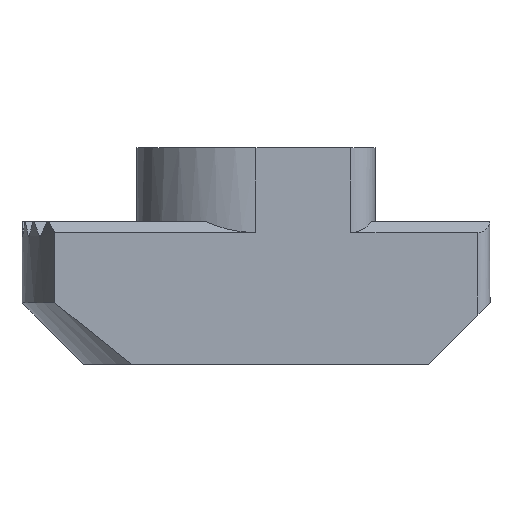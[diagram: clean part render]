
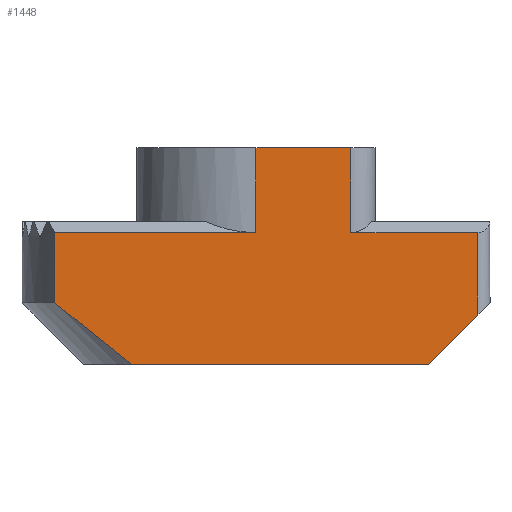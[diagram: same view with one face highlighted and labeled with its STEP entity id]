
A CAD part, front view. The second image highlights one B-rep face of the part: STEP entity #1448.
In plain terms, the highlighted planar face has unit normal (0, -1, 0).
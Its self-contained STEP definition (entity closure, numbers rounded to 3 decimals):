
#32 = VECTOR ( 'NONE', #359, 1000. ) ;
#104 = EDGE_CURVE ( 'NONE', #1151, #149, #1621, .T. ) ;
#149 = VERTEX_POINT ( 'NONE', #1401 ) ;
#186 = DIRECTION ( 'NONE',  ( 0., 0., -1. ) ) ;
#204 = VERTEX_POINT ( 'NONE', #2569 ) ;
#212 = CARTESIAN_POINT ( 'NONE',  ( 0., -4.85, -0.45 ) ) ;
#224 = DIRECTION ( 'NONE',  ( 0., -1., 0. ) ) ;
#298 = VECTOR ( 'NONE', #2303, 1000. ) ;
#328 = LINE ( 'NONE', #2490, #1035 ) ;
#333 = EDGE_CURVE ( 'NONE', #204, #1520, #2553, .T. ) ;
#359 = DIRECTION ( 'NONE',  ( 0.707, 0., 0.707 ) ) ;
#367 = VERTEX_POINT ( 'NONE', #904 ) ;
#378 = EDGE_CURVE ( 'NONE', #204, #2685, #1313, .T. ) ;
#379 = LINE ( 'NONE', #419, #2646 ) ;
#404 = ORIENTED_EDGE ( 'NONE', *, *, #1333, .T. ) ;
#419 = CARTESIAN_POINT ( 'NONE',  ( 0., -4.85, 3. ) ) ;
#468 = CARTESIAN_POINT ( 'NONE',  ( 3.85, -4.85, 3. ) ) ;
#497 = LINE ( 'NONE', #1758, #2519 ) ;
#533 = DIRECTION ( 'NONE',  ( 0., 0., 1. ) ) ;
#594 = VECTOR ( 'NONE', #1320, 1000. ) ;
#632 = EDGE_CURVE ( 'NONE', #1151, #2429, #497, .T. ) ;
#640 = ORIENTED_EDGE ( 'NONE', *, *, #2381, .F. ) ;
#654 = ORIENTED_EDGE ( 'NONE', *, *, #1048, .F. ) ;
#686 = VECTOR ( 'NONE', #2117, 1000. ) ;
#724 = EDGE_CURVE ( 'NONE', #149, #1520, #2070, .T. ) ;
#801 = ORIENTED_EDGE ( 'NONE', *, *, #724, .T. ) ;
#872 = CARTESIAN_POINT ( 'NONE',  ( 9., -4.85, 5.8 ) ) ;
#887 = FACE_OUTER_BOUND ( 'NONE', #1790, .T. ) ;
#904 = CARTESIAN_POINT ( 'NONE',  ( 0., -4.85, -0.45 ) ) ;
#972 = DIRECTION ( 'NONE',  ( 1., 0., 0. ) ) ;
#1034 = ORIENTED_EDGE ( 'NONE', *, *, #104, .T. ) ;
#1035 = VECTOR ( 'NONE', #533, 1000. ) ;
#1048 = EDGE_CURVE ( 'NONE', #1266, #2685, #1361, .T. ) ;
#1074 = DIRECTION ( 'NONE',  ( 0., 0., -1. ) ) ;
#1112 = AXIS2_PLACEMENT_3D ( 'NONE', #2374, #224, #1074 ) ;
#1120 = VERTEX_POINT ( 'NONE', #2011 ) ;
#1151 = VERTEX_POINT ( 'NONE', #2667 ) ;
#1198 = CARTESIAN_POINT ( 'NONE',  ( 7., -4.85, -5.8 ) ) ;
#1214 = VECTOR ( 'NONE', #1307, 1000. ) ;
#1266 = VERTEX_POINT ( 'NONE', #1690 ) ;
#1274 = LINE ( 'NONE', #212, #686 ) ;
#1307 = DIRECTION ( 'NONE',  ( 1., 0., 0. ) ) ;
#1313 = LINE ( 'NONE', #1522, #1888 ) ;
#1320 = DIRECTION ( 'NONE',  ( 0., 0., -1. ) ) ;
#1333 = EDGE_CURVE ( 'NONE', #367, #1120, #1274, .T. ) ;
#1361 = LINE ( 'NONE', #468, #594 ) ;
#1401 = CARTESIAN_POINT ( 'NONE',  ( 7., -4.85, -5.8 ) ) ;
#1448 = ADVANCED_FACE ( 'NONE', ( #887 ), #1519, .T. ) ;
#1519 = PLANE ( 'NONE',  #1112 ) ;
#1520 = VERTEX_POINT ( 'NONE', #1786 ) ;
#1522 = CARTESIAN_POINT ( 'NONE',  ( 0., -4.85, -0.45 ) ) ;
#1534 = DIRECTION ( 'NONE',  ( -1., 0., 0. ) ) ;
#1536 = CARTESIAN_POINT ( 'NONE',  ( 3.85, -4.85, -0.45 ) ) ;
#1573 = ORIENTED_EDGE ( 'NONE', *, *, #2253, .F. ) ;
#1621 = LINE ( 'NONE', #2678, #1669 ) ;
#1642 = ORIENTED_EDGE ( 'NONE', *, *, #378, .T. ) ;
#1669 = VECTOR ( 'NONE', #972, 1000. ) ;
#1690 = CARTESIAN_POINT ( 'NONE',  ( 3.85, -4.85, 3. ) ) ;
#1758 = CARTESIAN_POINT ( 'NONE',  ( -5.048, -4.85, -5.8 ) ) ;
#1786 = CARTESIAN_POINT ( 'NONE',  ( 9., -4.85, -3.8 ) ) ;
#1790 = EDGE_LOOP ( 'NONE', ( #801, #2363, #1642, #654, #1573, #2090, #404, #640, #1907, #1034 ) ) ;
#1888 = VECTOR ( 'NONE', #1534, 1000. ) ;
#1907 = ORIENTED_EDGE ( 'NONE', *, *, #632, .F. ) ;
#1955 = LINE ( 'NONE', #2385, #1214 ) ;
#2011 = CARTESIAN_POINT ( 'NONE',  ( -8.169, -4.85, -0.45 ) ) ;
#2034 = VERTEX_POINT ( 'NONE', #2708 ) ;
#2070 = LINE ( 'NONE', #1198, #32 ) ;
#2090 = ORIENTED_EDGE ( 'NONE', *, *, #2609, .T. ) ;
#2117 = DIRECTION ( 'NONE',  ( -1., 0., 0. ) ) ;
#2253 = EDGE_CURVE ( 'NONE', #2034, #1266, #1955, .T. ) ;
#2303 = DIRECTION ( 'NONE',  ( 0., 0., -1. ) ) ;
#2363 = ORIENTED_EDGE ( 'NONE', *, *, #333, .F. ) ;
#2374 = CARTESIAN_POINT ( 'NONE',  ( 0., -4.85, 0. ) ) ;
#2381 = EDGE_CURVE ( 'NONE', #2429, #1120, #328, .T. ) ;
#2385 = CARTESIAN_POINT ( 'NONE',  ( 0., -4.85, 3. ) ) ;
#2388 = DIRECTION ( 'NONE',  ( -0.78, 0., 0.625 ) ) ;
#2429 = VERTEX_POINT ( 'NONE', #2451 ) ;
#2451 = CARTESIAN_POINT ( 'NONE',  ( -8.169, -4.85, -3.3 ) ) ;
#2490 = CARTESIAN_POINT ( 'NONE',  ( -8.169, -4.85, -3.3 ) ) ;
#2519 = VECTOR ( 'NONE', #2388, 1000. ) ;
#2553 = LINE ( 'NONE', #872, #298 ) ;
#2569 = CARTESIAN_POINT ( 'NONE',  ( 9., -4.85, -0.45 ) ) ;
#2609 = EDGE_CURVE ( 'NONE', #2034, #367, #379, .T. ) ;
#2646 = VECTOR ( 'NONE', #186, 1000. ) ;
#2667 = CARTESIAN_POINT ( 'NONE',  ( -5.048, -4.85, -5.8 ) ) ;
#2678 = CARTESIAN_POINT ( 'NONE',  ( -5.048, -4.85, -5.8 ) ) ;
#2685 = VERTEX_POINT ( 'NONE', #1536 ) ;
#2708 = CARTESIAN_POINT ( 'NONE',  ( 0., -4.85, 3. ) ) ;
